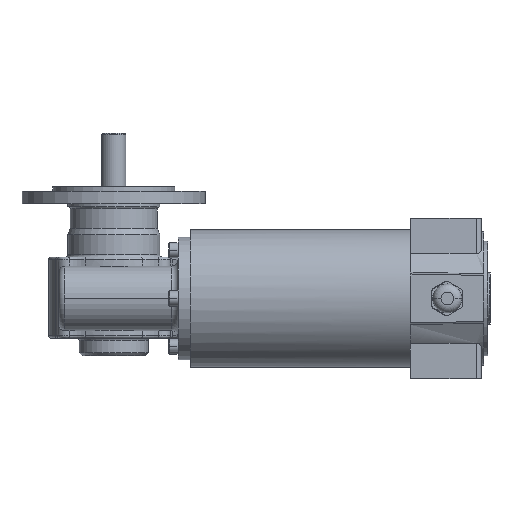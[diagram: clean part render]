
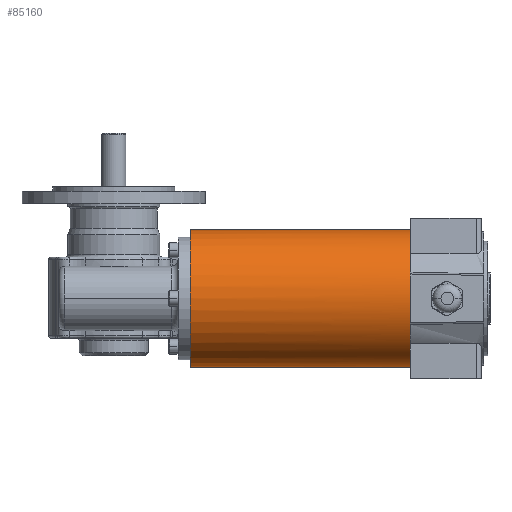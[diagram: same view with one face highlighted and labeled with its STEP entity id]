
A CAD part, front view. The second image highlights one B-rep face of the part: STEP entity #85160.
In plain terms, the highlighted cylindrical face has radius 45 mm (diameter 90 mm), a partial arc.
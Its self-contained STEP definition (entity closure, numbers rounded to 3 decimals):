
#20410=CARTESIAN_POINT('',(-64.,458.874,
-134.584));
#20420=DIRECTION('',(0.,1.,
-0.026));
#20430=DIRECTION('',(1.,0.,0.));
#20440=AXIS2_PLACEMENT_3D('',#20410,#20420,#20430);
#20450=CIRCLE('',#20440,45.);
#20460=CARTESIAN_POINT('',(-19.,458.874,
-134.584));
#20470=VERTEX_POINT('',#20460);
#20480=CARTESIAN_POINT('',(-109.,458.874,
-134.584));
#20490=VERTEX_POINT('',#20480);
#20500=EDGE_CURVE('',#20470,#20490,#20450,.T.);
#22880=CARTESIAN_POINT('',(-64.,458.874,
-134.584));
#22890=DIRECTION('',(0.,1.,
-0.026));
#22900=DIRECTION('',(1.,0.,0.));
#22910=AXIS2_PLACEMENT_3D('',#22880,#22890,#22900);
#22920=CYLINDRICAL_SURFACE('',#22910,45.);
#22930=CARTESIAN_POINT('',(-109.,458.874,
-134.584));
#22940=DIRECTION('',(0.,1.,
-0.026));
#22950=VECTOR('',#22940,1.);
#22960=LINE('',#22930,#22950);
#22970=CARTESIAN_POINT('',(-109.,602.825,
-138.354));
#22980=VERTEX_POINT('',#22970);
#22990=EDGE_CURVE('',#20490,#22980,#22960,.T.);
#23010=CARTESIAN_POINT('',(-64.,602.825,
-138.354));
#23020=DIRECTION('',(0.,1.,
-0.026));
#23030=DIRECTION('',(1.,0.,0.));
#23040=AXIS2_PLACEMENT_3D('',#23010,#23020,#23030);
#23050=CIRCLE('',#23040,45.);
#23060=CARTESIAN_POINT('',(-19.,602.825,
-138.354));
#23070=VERTEX_POINT('',#23060);
#23100=CARTESIAN_POINT('',(-19.,458.874,
-134.584));
#23110=DIRECTION('',(0.,1.,
-0.026));
#23120=VECTOR('',#23110,1.);
#23130=LINE('',#23100,#23120);
#23140=EDGE_CURVE('',#20470,#23070,#23130,.T.);
#23250=EDGE_CURVE('',#23070,#22980,#23050,.T.);
#85100=ORIENTED_EDGE('',*,*,#20500,.T.);
#85110=ORIENTED_EDGE('',*,*,#23140,.F.);
#85120=ORIENTED_EDGE('',*,*,#23250,.F.);
#85130=ORIENTED_EDGE('',*,*,#22990,.T.);
#85140=EDGE_LOOP('',(#85130,#85120,#85110,#85100));
#85150=FACE_OUTER_BOUND('',#85140,.T.);
#85160=ADVANCED_FACE('',(#85150),#22920,.T.);
